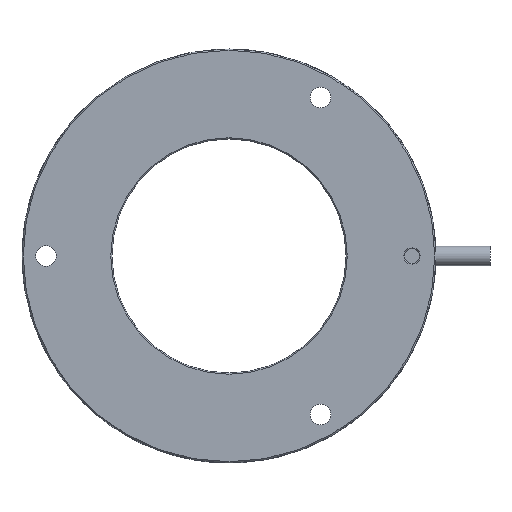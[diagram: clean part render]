
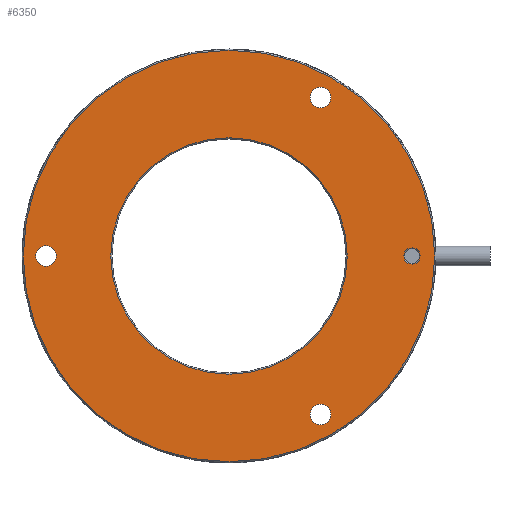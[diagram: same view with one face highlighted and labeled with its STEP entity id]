
A CAD part, front view. The second image highlights one B-rep face of the part: STEP entity #6350.
In plain terms, the highlighted planar face has unit normal (0, -1, 0).
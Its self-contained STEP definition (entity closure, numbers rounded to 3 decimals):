
#60 = CARTESIAN_POINT ( 'NONE',  ( 0., 0., 0. ) ) ;
#233 = DIRECTION ( 'NONE',  ( 0., 1., 0. ) ) ;
#238 = CARTESIAN_POINT ( 'NONE',  ( 16.1, 0., 24.942 ) ) ;
#259 = CARTESIAN_POINT ( 'NONE',  ( 0., 0., 0. ) ) ;
#314 = DIRECTION ( 'NONE',  ( -0.5, 0., 0.866 ) ) ;
#330 = CARTESIAN_POINT ( 'NONE',  ( -17.15, 0., 29.705 ) ) ;
#369 = DIRECTION ( 'NONE',  ( -0.5, 0., 0.866 ) ) ;
#390 = EDGE_CURVE ( 'NONE', #5818, #5886, #1474, .T. ) ;
#488 = EDGE_CURVE ( 'NONE', #5470, #8191, #5031, .T. ) ;
#524 = FACE_BOUND ( 'NONE', #6788, .T. ) ;
#943 = ORIENTED_EDGE ( 'NONE', *, *, #4672, .T. ) ;
#1101 = EDGE_CURVE ( 'NONE', #5886, #5818, #8890, .T. ) ;
#1144 = CARTESIAN_POINT ( 'NONE',  ( -29.65, 0., -1.472 ) ) ;
#1153 = DIRECTION ( 'NONE',  ( 0., 1., 0. ) ) ;
#1271 = VERTEX_POINT ( 'NONE', #9365 ) ;
#1358 = ORIENTED_EDGE ( 'NONE', *, *, #488, .T. ) ;
#1452 = EDGE_LOOP ( 'NONE', ( #3246, #4170 ) ) ;
#1463 = DIRECTION ( 'NONE',  ( 0., -1., 0. ) ) ;
#1474 = CIRCLE ( 'NONE', #6274, 1.7 ) ;
#1513 = ORIENTED_EDGE ( 'NONE', *, *, #1101, .T. ) ;
#1593 = EDGE_CURVE ( 'NONE', #8191, #5470, #9324, .T. ) ;
#1657 = CIRCLE ( 'NONE', #2906, 1.7 ) ;
#1678 = DIRECTION ( 'NONE',  ( 0., 1., 0. ) ) ;
#1868 = DIRECTION ( 'NONE',  ( 0., 1., 0. ) ) ;
#1888 = VERTEX_POINT ( 'NONE', #3657 ) ;
#2044 = DIRECTION ( 'NONE',  ( -0.5, 0., 0.866 ) ) ;
#2081 = EDGE_LOOP ( 'NONE', ( #3385, #6315 ) ) ;
#2088 = FACE_BOUND ( 'NONE', #7624, .T. ) ;
#2509 = CIRCLE ( 'NONE', #6539, 19.7 ) ;
#2545 = CARTESIAN_POINT ( 'NONE',  ( 15.25, 0., -26.414 ) ) ;
#2566 = DIRECTION ( 'NONE',  ( -0.5, 0., 0.866 ) ) ;
#2624 = DIRECTION ( 'NONE',  ( 0., 1., 0. ) ) ;
#2719 = AXIS2_PLACEMENT_3D ( 'NONE', #5951, #4344, #5908 ) ;
#2772 = CIRCLE ( 'NONE', #5869, 1.7 ) ;
#2906 = AXIS2_PLACEMENT_3D ( 'NONE', #7762, #4004, #7030 ) ;
#3131 = CIRCLE ( 'NONE', #8528, 34.3 ) ;
#3246 = ORIENTED_EDGE ( 'NONE', *, *, #4726, .T. ) ;
#3273 = CIRCLE ( 'NONE', #3573, 1.7 ) ;
#3278 = DIRECTION ( 'NONE',  ( 0., 1., 0. ) ) ;
#3351 = CARTESIAN_POINT ( 'NONE',  ( 0., 0., 0. ) ) ;
#3385 = ORIENTED_EDGE ( 'NONE', *, *, #7500, .T. ) ;
#3544 = EDGE_LOOP ( 'NONE', ( #7474, #4384 ) ) ;
#3573 = AXIS2_PLACEMENT_3D ( 'NONE', #7681, #3278, #9189 ) ;
#3576 = CIRCLE ( 'NONE', #8210, 34.3 ) ;
#3607 = EDGE_LOOP ( 'NONE', ( #6841, #943 ) ) ;
#3619 = ORIENTED_EDGE ( 'NONE', *, *, #1593, .T. ) ;
#3657 = CARTESIAN_POINT ( 'NONE',  ( 17.15, 0., -29.705 ) ) ;
#4004 = DIRECTION ( 'NONE',  ( 0., 1., 0. ) ) ;
#4143 = DIRECTION ( 'NONE',  ( -0.5, 0., 0.866 ) ) ;
#4170 = ORIENTED_EDGE ( 'NONE', *, *, #7955, .T. ) ;
#4230 = CARTESIAN_POINT ( 'NONE',  ( 16.1, 0., -27.886 ) ) ;
#4244 = DIRECTION ( 'NONE',  ( 0., 1., 0. ) ) ;
#4278 = VERTEX_POINT ( 'NONE', #1144 ) ;
#4309 = PLANE ( 'NONE',  #4912 ) ;
#4316 = DIRECTION ( 'NONE',  ( -0.5, 0., 0.866 ) ) ;
#4344 = DIRECTION ( 'NONE',  ( 0., 1., 0. ) ) ;
#4384 = ORIENTED_EDGE ( 'NONE', *, *, #9594, .T. ) ;
#4592 = CARTESIAN_POINT ( 'NONE',  ( 15.25, 0., 26.414 ) ) ;
#4646 = DIRECTION ( 'NONE',  ( -0.5, 0., 0.866 ) ) ;
#4672 = EDGE_CURVE ( 'NONE', #4278, #1271, #3273, .T. ) ;
#4726 = EDGE_CURVE ( 'NONE', #8923, #1888, #3131, .T. ) ;
#4912 = AXIS2_PLACEMENT_3D ( 'NONE', #8580, #7283, #2044 ) ;
#4987 = CIRCLE ( 'NONE', #7008, 1.7 ) ;
#5031 = CIRCLE ( 'NONE', #2719, 1.35 ) ;
#5124 = CARTESIAN_POINT ( 'NONE',  ( 9.85, 0., -17.061 ) ) ;
#5459 = EDGE_CURVE ( 'NONE', #8428, #8097, #4987, .T. ) ;
#5470 = VERTEX_POINT ( 'NONE', #5545 ) ;
#5545 = CARTESIAN_POINT ( 'NONE',  ( 31.175, 0., -1.169 ) ) ;
#5650 = AXIS2_PLACEMENT_3D ( 'NONE', #2545, #1153, #8471 ) ;
#5818 = VERTEX_POINT ( 'NONE', #4230 ) ;
#5869 = AXIS2_PLACEMENT_3D ( 'NONE', #4592, #7566, #314 ) ;
#5886 = VERTEX_POINT ( 'NONE', #6662 ) ;
#5908 = DIRECTION ( 'NONE',  ( -0.5, 0., 0.866 ) ) ;
#5951 = CARTESIAN_POINT ( 'NONE',  ( 30.5, 0., 0. ) ) ;
#6223 = ORIENTED_EDGE ( 'NONE', *, *, #390, .T. ) ;
#6274 = AXIS2_PLACEMENT_3D ( 'NONE', #7202, #4244, #4143 ) ;
#6315 = ORIENTED_EDGE ( 'NONE', *, *, #8937, .T. ) ;
#6350 = ADVANCED_FACE ( 'NONE', ( #2088, #7224, #7900, #524, #7178, #9421 ), #4309, .F. ) ;
#6508 = EDGE_CURVE ( 'NONE', #1271, #4278, #1657, .T. ) ;
#6539 = AXIS2_PLACEMENT_3D ( 'NONE', #259, #1678, #4646 ) ;
#6608 = DIRECTION ( 'NONE',  ( -0.5, 0., 0.866 ) ) ;
#6653 = CARTESIAN_POINT ( 'NONE',  ( 0., 0., 0. ) ) ;
#6662 = CARTESIAN_POINT ( 'NONE',  ( 14.4, 0., -24.942 ) ) ;
#6788 = EDGE_LOOP ( 'NONE', ( #1513, #6223 ) ) ;
#6841 = ORIENTED_EDGE ( 'NONE', *, *, #6508, .T. ) ;
#6935 = CIRCLE ( 'NONE', #9569, 19.7 ) ;
#7008 = AXIS2_PLACEMENT_3D ( 'NONE', #7077, #2624, #2566 ) ;
#7030 = DIRECTION ( 'NONE',  ( -0.5, 0., 0.866 ) ) ;
#7077 = CARTESIAN_POINT ( 'NONE',  ( 15.25, 0., 26.414 ) ) ;
#7178 = FACE_BOUND ( 'NONE', #3544, .T. ) ;
#7202 = CARTESIAN_POINT ( 'NONE',  ( 15.25, 0., -26.414 ) ) ;
#7224 = FACE_BOUND ( 'NONE', #2081, .T. ) ;
#7257 = CARTESIAN_POINT ( 'NONE',  ( 29.825, 0., 1.169 ) ) ;
#7283 = DIRECTION ( 'NONE',  ( 0., 1., 0. ) ) ;
#7380 = DIRECTION ( 'NONE',  ( 0., -1., 0. ) ) ;
#7444 = VERTEX_POINT ( 'NONE', #5124 ) ;
#7474 = ORIENTED_EDGE ( 'NONE', *, *, #5459, .T. ) ;
#7500 = EDGE_CURVE ( 'NONE', #7444, #8908, #2509, .T. ) ;
#7566 = DIRECTION ( 'NONE',  ( 0., 1., 0. ) ) ;
#7624 = EDGE_LOOP ( 'NONE', ( #1358, #3619 ) ) ;
#7681 = CARTESIAN_POINT ( 'NONE',  ( -30.5, 0., 0. ) ) ;
#7762 = CARTESIAN_POINT ( 'NONE',  ( -30.5, 0., 0. ) ) ;
#7792 = CARTESIAN_POINT ( 'NONE',  ( 14.4, 0., 27.886 ) ) ;
#7810 = CARTESIAN_POINT ( 'NONE',  ( -9.85, 0., 17.061 ) ) ;
#7900 = FACE_OUTER_BOUND ( 'NONE', #1452, .T. ) ;
#7955 = EDGE_CURVE ( 'NONE', #1888, #8923, #3576, .T. ) ;
#8057 = AXIS2_PLACEMENT_3D ( 'NONE', #9143, #1868, #8552 ) ;
#8097 = VERTEX_POINT ( 'NONE', #238 ) ;
#8191 = VERTEX_POINT ( 'NONE', #7257 ) ;
#8210 = AXIS2_PLACEMENT_3D ( 'NONE', #60, #1463, #6608 ) ;
#8428 = VERTEX_POINT ( 'NONE', #7792 ) ;
#8471 = DIRECTION ( 'NONE',  ( -0.5, 0., 0.866 ) ) ;
#8528 = AXIS2_PLACEMENT_3D ( 'NONE', #6653, #7380, #4316 ) ;
#8552 = DIRECTION ( 'NONE',  ( -0.5, 0., 0.866 ) ) ;
#8580 = CARTESIAN_POINT ( 'NONE',  ( 0., 0., 0. ) ) ;
#8890 = CIRCLE ( 'NONE', #5650, 1.7 ) ;
#8908 = VERTEX_POINT ( 'NONE', #7810 ) ;
#8923 = VERTEX_POINT ( 'NONE', #330 ) ;
#8937 = EDGE_CURVE ( 'NONE', #8908, #7444, #6935, .T. ) ;
#9143 = CARTESIAN_POINT ( 'NONE',  ( 30.5, 0., 0. ) ) ;
#9189 = DIRECTION ( 'NONE',  ( -0.5, 0., 0.866 ) ) ;
#9324 = CIRCLE ( 'NONE', #8057, 1.35 ) ;
#9365 = CARTESIAN_POINT ( 'NONE',  ( -31.35, 0., 1.472 ) ) ;
#9421 = FACE_BOUND ( 'NONE', #3607, .T. ) ;
#9569 = AXIS2_PLACEMENT_3D ( 'NONE', #3351, #233, #369 ) ;
#9594 = EDGE_CURVE ( 'NONE', #8097, #8428, #2772, .T. ) ;
